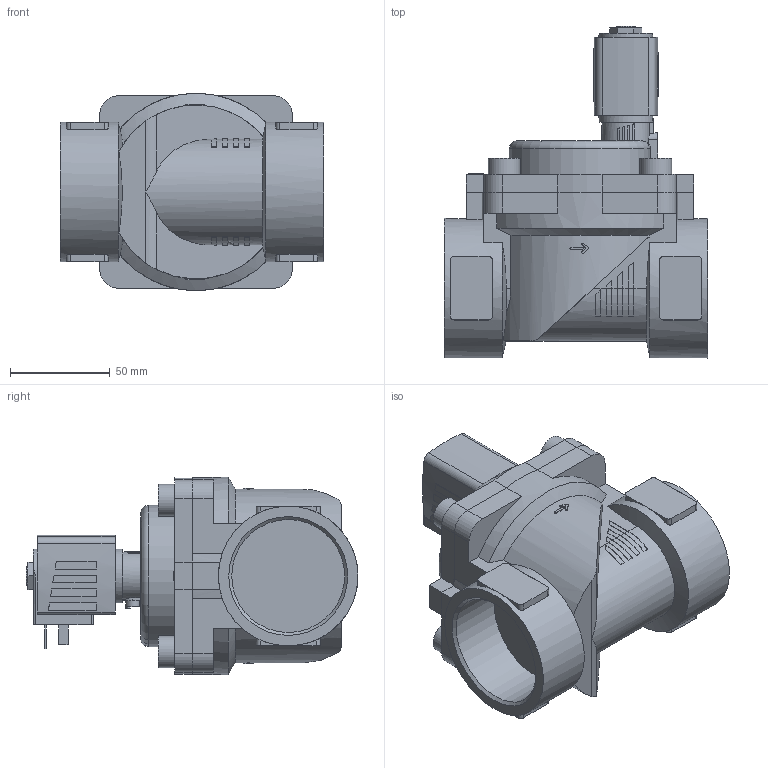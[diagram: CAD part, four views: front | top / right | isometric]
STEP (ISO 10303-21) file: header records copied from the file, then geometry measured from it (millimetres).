
FILE_DESCRIPTION(/* description */ ('STEP AP214'),/* implementation_level */ '2;1');
FILE_NAME(/* name */ '6281-268053-2_2-Way_Solenoid_Valve__Servo-assisted__General_Purpose',/* time_stamp */ '2024-09-02T21:50:54+02:00',/* author */ ('License CC BY-ND 4.0'),/* organization */ ('CADENAS'),/* preprocessor_version */ 'ST-DEVELOPER v19.3',/* originating_system */ 'PARTsolutions',/* authorisation */ ' ');
FILE_SCHEMA (('AUTOMOTIVE_DESIGN {1 0 10303 214 3 1 1}'));
Length unit declared in the file: millimetre
Products named in the file (4): 6281-268053-2/2-Way Solenoid Valve, Servo-assisted, General Purpose; 5281ev401MS2/2-Wege-Magnetventil mit Servomembran-Deckel 99 ; 6213-40G2MS-Gehaeuse-; AC10ex-5NA38-Plan-Coil
Assembly tree (3 placements, depth 2):
  6281-268053-2/2-Way Solenoid Valve, Servo-assisted, General Purpose
    5281ev401MS2/2-Wege-Magnetventil mit Servomembran-Deckel 99 
    6213-40G2MS-Gehaeuse-
    AC10ex-5NA38-Plan-Coil
Bounding box: 132 x 166.5 x 99 mm (x, y, z)
Volume: 728849 mm3; surface area: 102723.6 mm2
Topology: 3 solids, 3 shells, 364 faces, 957 edges, 633 vertices
Faces by surface type: plane 251, cylinder 99, cone 13, torus 1
Full cylindrical faces by diameter (mm): 2.013 x1, 6.8 x1, 9.74 x1, 16 x4, 27 x1, 56.656 x2, 70 x2
Entity records: 12609 total; most frequent: CARTESIAN_POINT 2204, ORIENTED_EDGE 1864, DIRECTION 1854, EDGE_CURVE 932, AXIS2_PLACEMENT_3D 626, VERTEX_POINT 624, LINE 602, VECTOR 602
